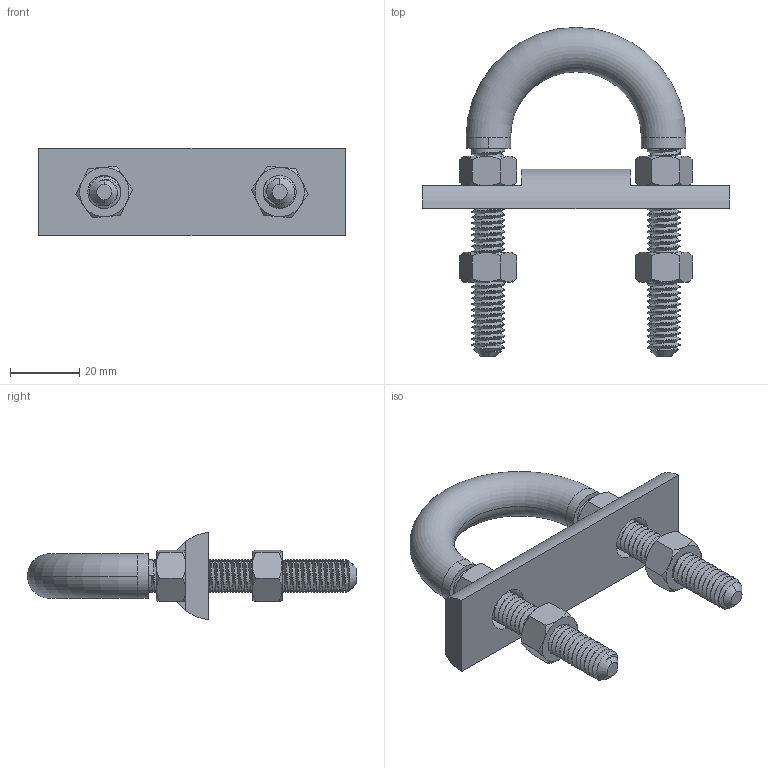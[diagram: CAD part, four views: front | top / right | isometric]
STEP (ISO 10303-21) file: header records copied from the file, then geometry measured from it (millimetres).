
FILE_DESCRIPTION (( 'STEP AP214' ), '1' );
FILE_NAME ('NUB1460.STEP', '2022-04-04T15:48:06', ( '' ), ( '' ), 'SwSTEP 2.0', 'SolidWorks 2021', '' );
FILE_SCHEMA (( 'AUTOMOTIVE_DESIGN' ));
Length unit declared in the file: inch
Products named in the file (4): NUB1460; FAS0045; UBT0987_UTB5-.075-0.375-16 [NUB1460]; ROD0634_IRX4-0.75XL [ROD0634]
Assembly tree (6 placements, depth 2):
  NUB1460
    FAS0045  x4
    UBT0987_UTB5-.075-0.375-16 [NUB1460]
    ROD0634_IRX4-0.75XL [ROD0634]
Bounding box: 88.9 x 95.35 x 25.27 mm (x, y, z)
Volume: 35536.6 mm3; surface area: 24057.9 mm2
Topology: 7 solids, 7 shells, 293 faces, 757 edges, 478 vertices
Faces by surface type: cylinder 168, cone 70, plane 45, torus 6, bspline 4
Entity records: 16558 total; most frequent: CARTESIAN_POINT 11683, ORIENTED_EDGE 1154, DIRECTION 767, EDGE_CURVE 577, VERTEX_POINT 376, AXIS2_PLACEMENT_3D 289, EDGE_LOOP 217, FACE_OUTER_BOUND 209
